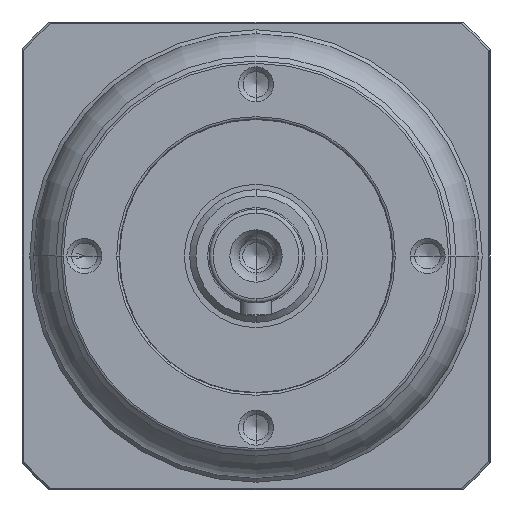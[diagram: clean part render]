
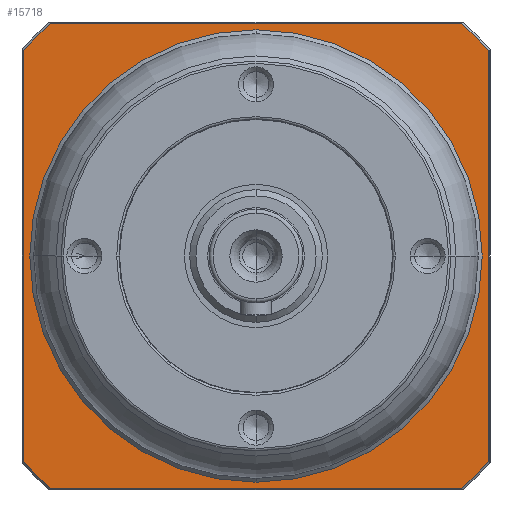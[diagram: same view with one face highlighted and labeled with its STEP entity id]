
A CAD part, left-side view. The second image highlights one B-rep face of the part: STEP entity #15718.
In plain terms, the highlighted planar face has unit normal (-1, 0, 0) as drawn and (0, 0, -1) by its records, which use the part's own axes.
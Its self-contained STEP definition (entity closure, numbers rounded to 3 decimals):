
#14592=CARTESIAN_POINT('',(0.,0.,
2.));
#14593=DIRECTION('',(0.,0.,-1.));
#14594=DIRECTION('',(0.,-1.,0.));
#14595=AXIS2_PLACEMENT_3D('',#14592,#14593,#14594);
#14597=CARTESIAN_POINT('',(0.,0.,
2.));
#14598=DIRECTION('',(0.,0.,-1.));
#14599=DIRECTION('',(0.,1.,0.));
#14600=AXIS2_PLACEMENT_3D('',#14597,#14598,#14599);
#14602=CARTESIAN_POINT('',(0.,0.,2.));
#14603=DIRECTION('',(0.,0.,1.));
#14604=DIRECTION('',(-0.749,-0.663,0.));
#14605=AXIS2_PLACEMENT_3D('',#14602,#14603,#14604);
#14607=DIRECTION('',(1.,0.,0.));
#14608=VECTOR('',#14607,52.764);
#14609=CARTESIAN_POINT('',(-26.382,-29.8,
2.));
#14610=LINE('',#14609,#14608);
#14611=CARTESIAN_POINT('',(0.,0.,2.));
#14612=DIRECTION('',(0.,0.,1.));
#14613=DIRECTION('',(0.663,-0.749,0.));
#14614=AXIS2_PLACEMENT_3D('',#14611,#14612,#14613);
#14616=DIRECTION('',(0.,1.,0.));
#14617=VECTOR('',#14616,52.764);
#14618=CARTESIAN_POINT('',(29.8,-26.382,
2.));
#14619=LINE('',#14618,#14617);
#14620=CARTESIAN_POINT('',(0.,0.,2.));
#14621=DIRECTION('',(0.,0.,1.));
#14622=DIRECTION('',(0.749,0.663,0.));
#14623=AXIS2_PLACEMENT_3D('',#14620,#14621,#14622);
#14625=DIRECTION('',(-1.,0.,0.));
#14626=VECTOR('',#14625,52.764);
#14627=CARTESIAN_POINT('',(26.382,29.8,2.));
#14628=LINE('',#14627,#14626);
#14629=CARTESIAN_POINT('',(0.,0.,2.));
#14630=DIRECTION('',(0.,0.,1.));
#14631=DIRECTION('',(-0.663,0.749,0.));
#14632=AXIS2_PLACEMENT_3D('',#14629,#14630,#14631);
#14634=DIRECTION('',(0.,-1.,0.));
#14635=VECTOR('',#14634,52.764);
#14636=CARTESIAN_POINT('',(-29.8,26.382,
2.));
#14637=LINE('',#14636,#14635);
#15373=CARTESIAN_POINT('',(0.,-29.,2.));
#15374=CARTESIAN_POINT('',(0.,29.,2.));
#15375=VERTEX_POINT('',#15373);
#15376=VERTEX_POINT('',#15374);
#15445=CARTESIAN_POINT('',(-29.8,-26.382,2.));
#15446=CARTESIAN_POINT('',(-26.382,-29.8,2.));
#15447=VERTEX_POINT('',#15445);
#15448=VERTEX_POINT('',#15446);
#15453=CARTESIAN_POINT('',(26.382,-29.8,
2.));
#15454=VERTEX_POINT('',#15453);
#15457=CARTESIAN_POINT('',(29.8,-26.382,2.));
#15458=VERTEX_POINT('',#15457);
#15461=CARTESIAN_POINT('',(29.8,26.382,2.));
#15462=VERTEX_POINT('',#15461);
#15465=CARTESIAN_POINT('',(26.382,29.8,2.));
#15466=VERTEX_POINT('',#15465);
#15469=CARTESIAN_POINT('',(-26.382,29.8,
2.));
#15470=VERTEX_POINT('',#15469);
#15475=CARTESIAN_POINT('',(-29.8,26.382,2.));
#15476=VERTEX_POINT('',#15475);
#15690=CARTESIAN_POINT('',(0.,0.,2.));
#15691=DIRECTION('',(0.,0.,1.));
#15692=DIRECTION('',(0.,1.,0.));
#15693=AXIS2_PLACEMENT_3D('',#15690,#15691,#15692);
#15694=PLANE('',#15693);
#15696=ORIENTED_EDGE('',*,*,#15695,.T.);
#15698=ORIENTED_EDGE('',*,*,#15697,.T.);
#15700=ORIENTED_EDGE('',*,*,#15699,.T.);
#15702=ORIENTED_EDGE('',*,*,#15701,.T.);
#15704=ORIENTED_EDGE('',*,*,#15703,.T.);
#15706=ORIENTED_EDGE('',*,*,#15705,.T.);
#15708=ORIENTED_EDGE('',*,*,#15707,.T.);
#15710=ORIENTED_EDGE('',*,*,#15709,.T.);
#15711=EDGE_LOOP('',(#15696,#15698,#15700,#15702,#15704,#15706,#15708,#15710));
#15712=FACE_OUTER_BOUND('',#15711,.F.);
#15714=ORIENTED_EDGE('',*,*,#15713,.T.);
#15715=ORIENTED_EDGE('',*,*,#15680,.T.);
#15716=EDGE_LOOP('',(#15714,#15715));
#15717=FACE_BOUND('',#15716,.F.);
#15718=ADVANCED_FACE('',(#15712,#15717),#15694,.F.);
#14596=CIRCLE('',#14595,29.);
#14601=CIRCLE('',#14600,29.);
#14606=CIRCLE('',#14605,39.8);
#14615=CIRCLE('',#14614,39.8);
#14624=CIRCLE('',#14623,39.8);
#14633=CIRCLE('',#14632,39.8);
#15680=EDGE_CURVE('',#15376,#15375,#14601,.T.);
#15695=EDGE_CURVE('',#15447,#15448,#14606,.T.);
#15697=EDGE_CURVE('',#15448,#15454,#14610,.T.);
#15699=EDGE_CURVE('',#15454,#15458,#14615,.T.);
#15701=EDGE_CURVE('',#15458,#15462,#14619,.T.);
#15703=EDGE_CURVE('',#15462,#15466,#14624,.T.);
#15705=EDGE_CURVE('',#15466,#15470,#14628,.T.);
#15707=EDGE_CURVE('',#15470,#15476,#14633,.T.);
#15709=EDGE_CURVE('',#15476,#15447,#14637,.T.);
#15713=EDGE_CURVE('',#15375,#15376,#14596,.T.);
